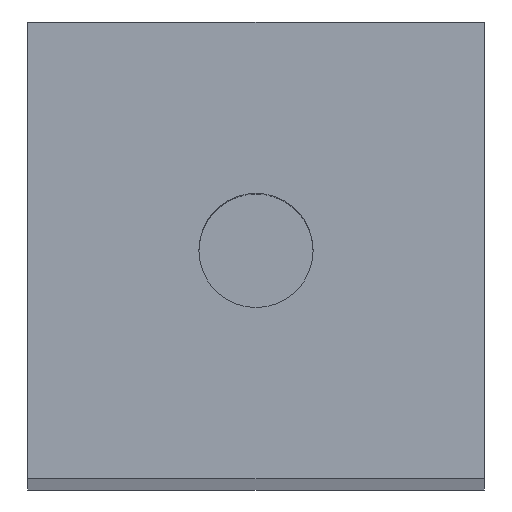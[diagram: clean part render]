
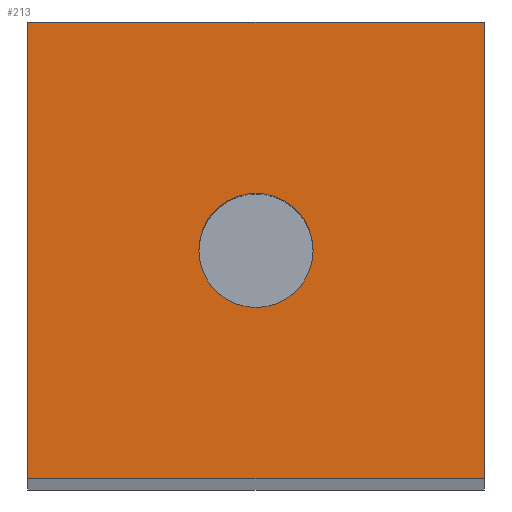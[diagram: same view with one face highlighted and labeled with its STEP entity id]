
A CAD part, top view. The second image highlights one B-rep face of the part: STEP entity #213.
In plain terms, the highlighted planar face has unit normal (0, 0, 1).
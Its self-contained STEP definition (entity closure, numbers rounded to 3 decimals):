
#24 = VERTEX_POINT('',#25);
#25 = CARTESIAN_POINT('',(100.,72.5,140.));
#32 = PLANE('',#33);
#33 = AXIS2_PLACEMENT_3D('',#34,#35,#36);
#34 = CARTESIAN_POINT('',(100.,72.5,0.));
#35 = DIRECTION('',(1.,0.,0.));
#36 = DIRECTION('',(0.,0.,1.));
#44 = PLANE('',#45);
#45 = AXIS2_PLACEMENT_3D('',#46,#47,#48);
#46 = CARTESIAN_POINT('',(100.,72.5,0.));
#47 = DIRECTION('',(0.,1.,0.));
#48 = DIRECTION('',(0.,0.,1.));
#85 = VERTEX_POINT('',#86);
#86 = CARTESIAN_POINT('',(100.,82.5,140.));
#100 = PLANE('',#101);
#101 = AXIS2_PLACEMENT_3D('',#102,#103,#104);
#102 = CARTESIAN_POINT('',(100.,82.5,0.));
#103 = DIRECTION('',(0.,1.,0.));
#104 = DIRECTION('',(0.,0.,1.));
#112 = EDGE_CURVE('',#24,#85,#113,.T.);
#113 = SURFACE_CURVE('',#114,(#118,#125),.PCURVE_S1.);
#114 = LINE('',#115,#116);
#115 = CARTESIAN_POINT('',(100.,72.5,140.));
#116 = VECTOR('',#117,1.);
#117 = DIRECTION('',(0.,1.,0.));
#118 = PCURVE('',#32,#119);
#119 = DEFINITIONAL_REPRESENTATION('',(#120),#124);
#120 = LINE('',#121,#122);
#121 = CARTESIAN_POINT('',(140.,0.));
#122 = VECTOR('',#123,1.);
#123 = DIRECTION('',(0.,-1.));
#124 = ( GEOMETRIC_REPRESENTATION_CONTEXT(2) 
PARAMETRIC_REPRESENTATION_CONTEXT() REPRESENTATION_CONTEXT('2D SPACE',''
  ) );
#125 = PCURVE('',#126,#131);
#126 = PLANE('',#127);
#127 = AXIS2_PLACEMENT_3D('',#128,#129,#130);
#128 = CARTESIAN_POINT('',(100.,72.5,140.));
#129 = DIRECTION('',(0.,0.,1.));
#130 = DIRECTION('',(1.,0.,0.));
#131 = DEFINITIONAL_REPRESENTATION('',(#132),#136);
#132 = LINE('',#133,#134);
#133 = CARTESIAN_POINT('',(0.,0.));
#134 = VECTOR('',#135,1.);
#135 = DIRECTION('',(0.,1.));
#136 = ( GEOMETRIC_REPRESENTATION_CONTEXT(2) 
PARAMETRIC_REPRESENTATION_CONTEXT() REPRESENTATION_CONTEXT('2D SPACE',''
  ) );
#165 = EDGE_CURVE('',#24,#166,#168,.T.);
#166 = VERTEX_POINT('',#167);
#167 = CARTESIAN_POINT('',(110.,72.5,140.));
#168 = SURFACE_CURVE('',#169,(#173,#180),.PCURVE_S1.);
#169 = LINE('',#170,#171);
#170 = CARTESIAN_POINT('',(100.,72.5,140.));
#171 = VECTOR('',#172,1.);
#172 = DIRECTION('',(1.,0.,0.));
#173 = PCURVE('',#44,#174);
#174 = DEFINITIONAL_REPRESENTATION('',(#175),#179);
#175 = LINE('',#176,#177);
#176 = CARTESIAN_POINT('',(140.,0.));
#177 = VECTOR('',#178,1.);
#178 = DIRECTION('',(0.,1.));
#179 = ( GEOMETRIC_REPRESENTATION_CONTEXT(2) 
PARAMETRIC_REPRESENTATION_CONTEXT() REPRESENTATION_CONTEXT('2D SPACE',''
  ) );
#180 = PCURVE('',#126,#181);
#181 = DEFINITIONAL_REPRESENTATION('',(#182),#186);
#182 = LINE('',#183,#184);
#183 = CARTESIAN_POINT('',(0.,0.));
#184 = VECTOR('',#185,1.);
#185 = DIRECTION('',(1.,0.));
#186 = ( GEOMETRIC_REPRESENTATION_CONTEXT(2) 
PARAMETRIC_REPRESENTATION_CONTEXT() REPRESENTATION_CONTEXT('2D SPACE',''
  ) );
#202 = PLANE('',#203);
#203 = AXIS2_PLACEMENT_3D('',#204,#205,#206);
#204 = CARTESIAN_POINT('',(110.,72.5,0.));
#205 = DIRECTION('',(1.,0.,0.));
#206 = DIRECTION('',(0.,0.,1.));
#213 = ADVANCED_FACE('',(#214,#262),#126,.T.);
#214 = FACE_BOUND('',#215,.T.);
#215 = EDGE_LOOP('',(#216,#217,#218,#241));
#216 = ORIENTED_EDGE('',*,*,#112,.F.);
#217 = ORIENTED_EDGE('',*,*,#165,.T.);
#218 = ORIENTED_EDGE('',*,*,#219,.T.);
#219 = EDGE_CURVE('',#166,#220,#222,.T.);
#220 = VERTEX_POINT('',#221);
#221 = CARTESIAN_POINT('',(110.,82.5,140.));
#222 = SURFACE_CURVE('',#223,(#227,#234),.PCURVE_S1.);
#223 = LINE('',#224,#225);
#224 = CARTESIAN_POINT('',(110.,72.5,140.));
#225 = VECTOR('',#226,1.);
#226 = DIRECTION('',(0.,1.,0.));
#227 = PCURVE('',#126,#228);
#228 = DEFINITIONAL_REPRESENTATION('',(#229),#233);
#229 = LINE('',#230,#231);
#230 = CARTESIAN_POINT('',(10.,0.));
#231 = VECTOR('',#232,1.);
#232 = DIRECTION('',(0.,1.));
#233 = ( GEOMETRIC_REPRESENTATION_CONTEXT(2) 
PARAMETRIC_REPRESENTATION_CONTEXT() REPRESENTATION_CONTEXT('2D SPACE',''
  ) );
#234 = PCURVE('',#202,#235);
#235 = DEFINITIONAL_REPRESENTATION('',(#236),#240);
#236 = LINE('',#237,#238);
#237 = CARTESIAN_POINT('',(140.,0.));
#238 = VECTOR('',#239,1.);
#239 = DIRECTION('',(0.,-1.));
#240 = ( GEOMETRIC_REPRESENTATION_CONTEXT(2) 
PARAMETRIC_REPRESENTATION_CONTEXT() REPRESENTATION_CONTEXT('2D SPACE',''
  ) );
#241 = ORIENTED_EDGE('',*,*,#242,.F.);
#242 = EDGE_CURVE('',#85,#220,#243,.T.);
#243 = SURFACE_CURVE('',#244,(#248,#255),.PCURVE_S1.);
#244 = LINE('',#245,#246);
#245 = CARTESIAN_POINT('',(100.,82.5,140.));
#246 = VECTOR('',#247,1.);
#247 = DIRECTION('',(1.,0.,0.));
#248 = PCURVE('',#126,#249);
#249 = DEFINITIONAL_REPRESENTATION('',(#250),#254);
#250 = LINE('',#251,#252);
#251 = CARTESIAN_POINT('',(0.,10.));
#252 = VECTOR('',#253,1.);
#253 = DIRECTION('',(1.,0.));
#254 = ( GEOMETRIC_REPRESENTATION_CONTEXT(2) 
PARAMETRIC_REPRESENTATION_CONTEXT() REPRESENTATION_CONTEXT('2D SPACE',''
  ) );
#255 = PCURVE('',#100,#256);
#256 = DEFINITIONAL_REPRESENTATION('',(#257),#261);
#257 = LINE('',#258,#259);
#258 = CARTESIAN_POINT('',(140.,0.));
#259 = VECTOR('',#260,1.);
#260 = DIRECTION('',(0.,1.));
#261 = ( GEOMETRIC_REPRESENTATION_CONTEXT(2) 
PARAMETRIC_REPRESENTATION_CONTEXT() REPRESENTATION_CONTEXT('2D SPACE',''
  ) );
#262 = FACE_BOUND('',#263,.T.);
#263 = EDGE_LOOP('',(#264));
#264 = ORIENTED_EDGE('',*,*,#265,.F.);
#265 = EDGE_CURVE('',#266,#266,#268,.T.);
#266 = VERTEX_POINT('',#267);
#267 = CARTESIAN_POINT('',(106.25,77.5,140.));
#268 = SURFACE_CURVE('',#269,(#274,#281),.PCURVE_S1.);
#269 = CIRCLE('',#270,1.25);
#270 = AXIS2_PLACEMENT_3D('',#271,#272,#273);
#271 = CARTESIAN_POINT('',(105.,77.5,140.));
#272 = DIRECTION('',(0.,0.,1.));
#273 = DIRECTION('',(1.,0.,-0.));
#274 = PCURVE('',#126,#275);
#275 = DEFINITIONAL_REPRESENTATION('',(#276),#280);
#276 = CIRCLE('',#277,1.25);
#277 = AXIS2_PLACEMENT_2D('',#278,#279);
#278 = CARTESIAN_POINT('',(5.,5.));
#279 = DIRECTION('',(1.,0.));
#280 = ( GEOMETRIC_REPRESENTATION_CONTEXT(2) 
PARAMETRIC_REPRESENTATION_CONTEXT() REPRESENTATION_CONTEXT('2D SPACE',''
  ) );
#281 = PCURVE('',#282,#287);
#282 = CYLINDRICAL_SURFACE('',#283,1.25);
#283 = AXIS2_PLACEMENT_3D('',#284,#285,#286);
#284 = CARTESIAN_POINT('',(105.,77.5,130.));
#285 = DIRECTION('',(0.,0.,1.));
#286 = DIRECTION('',(1.,0.,-0.));
#287 = DEFINITIONAL_REPRESENTATION('',(#288),#292);
#288 = LINE('',#289,#290);
#289 = CARTESIAN_POINT('',(0.,10.));
#290 = VECTOR('',#291,1.);
#291 = DIRECTION('',(1.,0.));
#292 = ( GEOMETRIC_REPRESENTATION_CONTEXT(2) 
PARAMETRIC_REPRESENTATION_CONTEXT() REPRESENTATION_CONTEXT('2D SPACE',''
  ) );
